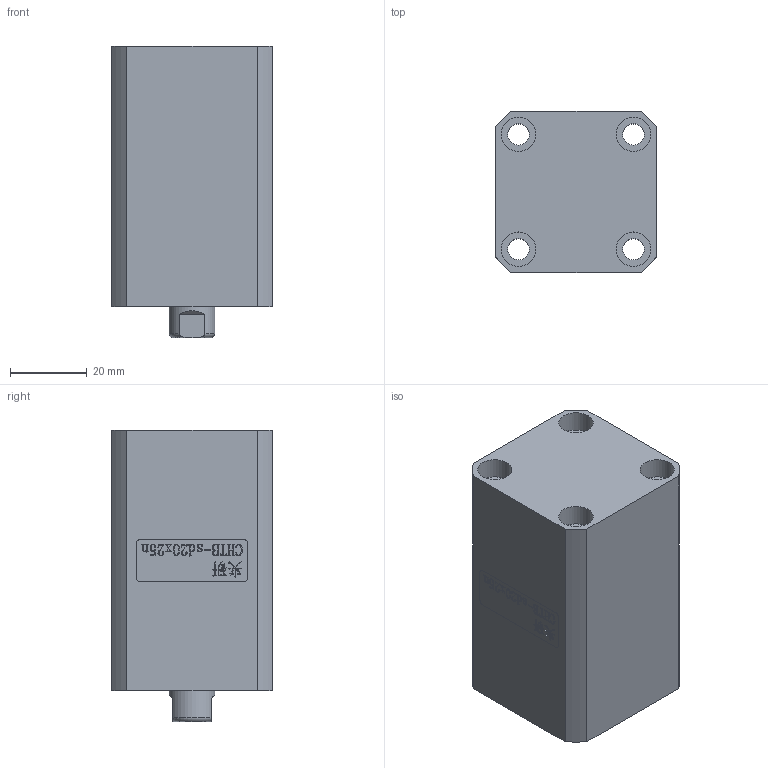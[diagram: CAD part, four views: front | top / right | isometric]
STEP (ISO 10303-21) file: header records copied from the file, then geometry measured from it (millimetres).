
FILE_DESCRIPTION(/* description */ (''),/* implementation_level */ '2;1');
FILE_NAME(/* name */ 'CHTB-sd20x25n.stp',/* time_stamp */ '2022-04-29T15:14:39+08:00',/* author */ (''),/* organization */ (''),/* preprocessor_version */ 'ST-DEVELOPER v16.7',/* originating_system */ 'SIEMENS PLM Software NX 12.0',/* authorisation */ '');
FILE_SCHEMA (('AUTOMOTIVE_DESIGN { 1 0 10303 214 3 1 1 1 }'));
Length unit declared in the file: millimetre
Products named in the file (1): CHTB-sd20x25n
Bounding box: 42 x 42 x 76 mm (x, y, z)
Volume: 101730.5 mm3; surface area: 32927.5 mm2
Topology: 3 solids, 3 shells, 444 faces, 1199 edges, 805 vertices
Faces by surface type: plane 267, extrusion 97, cylinder 48, torus 18, bspline 9, cone 5
Full cylindrical faces by diameter (mm): 3 x4, 5.6 x4, 6.8 x1, 7.9 x2, 9 x8, 12 x2, 16 x2, 18 x1, 20 x5, 27 x9
Entity records: 21278 total; most frequent: CARTESIAN_POINT 8693, ORIENTED_EDGE 2222, DIRECTION 1697, EDGE_CURVE 1111, VECTOR 843, VERTEX_POINT 782, LINE 746, EDGE_LOOP 546
